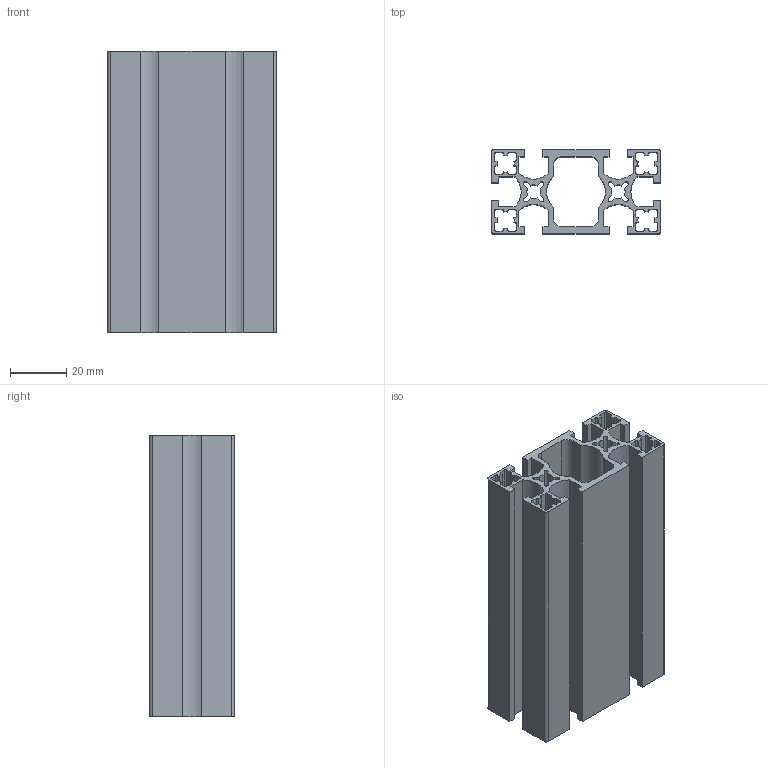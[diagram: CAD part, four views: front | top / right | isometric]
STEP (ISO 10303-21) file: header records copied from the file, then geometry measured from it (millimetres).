
FILE_DESCRIPTION (( 'STEP AP203' ), '1' );
FILE_NAME ('WS3060M-6.STEP', '2024-02-17T06:42:35', ( '' ), ( '' ), 'SwSTEP 2.0', 'SolidWorks 2022', '' );
FILE_SCHEMA (( 'CONFIG_CONTROL_DESIGN' ));
Length unit declared in the file: millimetre
Products named in the file (1): WS3060M-6
Bounding box: 60 x 30 x 100 mm (x, y, z)
Volume: 52802.3 mm3; surface area: 63254.8 mm2
Topology: 1 solids, 1 shells, 242 faces, 720 edges, 480 vertices
Faces by surface type: plane 134, cylinder 108
Entity records: 8265 total; most frequent: CARTESIAN_POINT 1443, ORIENTED_EDGE 1440, DIRECTION 1422, EDGE_CURVE 720, VECTOR 504, LINE 504, VERTEX_POINT 480, AXIS2_PLACEMENT_3D 459
